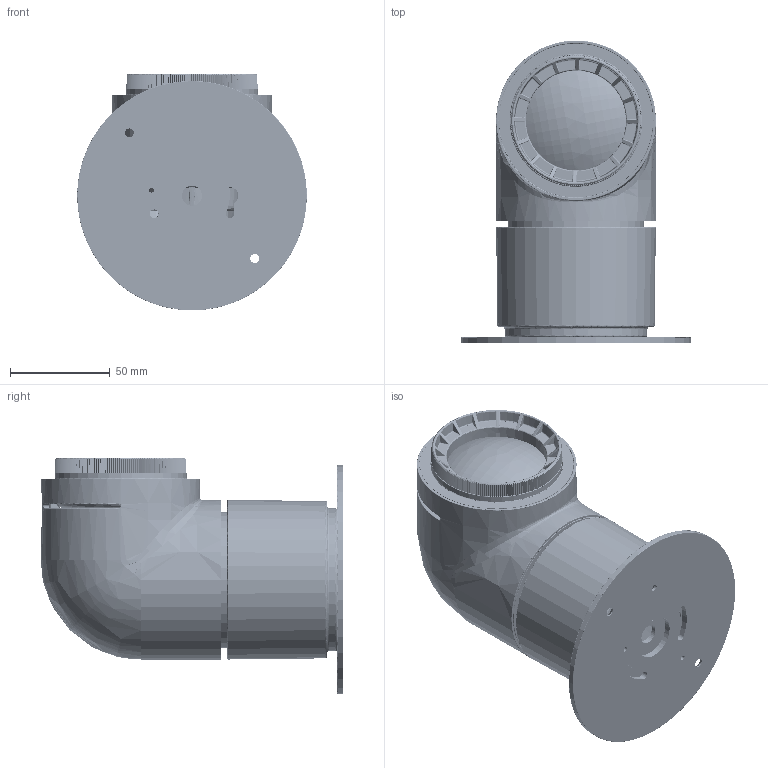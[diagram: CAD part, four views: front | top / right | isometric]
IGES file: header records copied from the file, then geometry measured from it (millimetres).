
Start section: SolidWorks IGES file using analytic representation for surfaces
Global section: file name: C:\Users\berta.gumma\OneDrive - santa &cole\Desktop\Petit tatu UL.IGS; native system: SolidWorks 2021; preprocessor: SolidWorks 2021; author: berta.gumma; date: 230918.123645; units: millimetre
Bounding box: 115 x 151.5 x 118.7 mm (x, y, z)
Surface area: 212222.3 mm2 (no closed solid volume)
Topology: 0 solids, 0 shells, 4270 faces, 36351 edges, 36036 vertices
Faces by surface type: bspline 2836, revolution 1434
